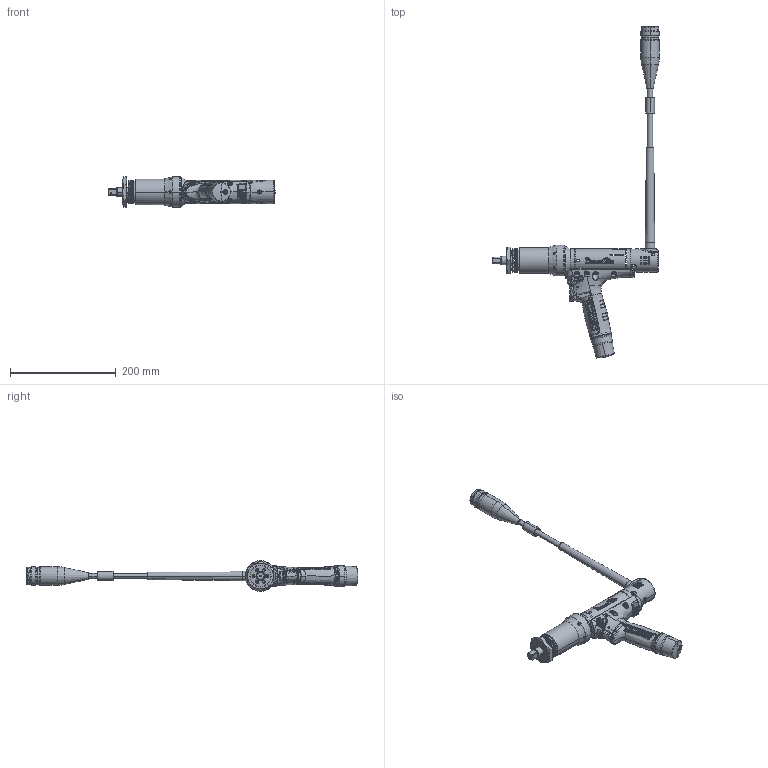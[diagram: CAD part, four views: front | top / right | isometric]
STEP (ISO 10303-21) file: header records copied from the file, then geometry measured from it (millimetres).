
FILE_DESCRIPTION((''),'2;1');
FILE_NAME('6151663100_DIM','2023-08-24T08:31:24',('S00000450'),(''),'CREO PARAMETRIC BY PTC INC, 2022414','CREO PARAMETRIC BY PTC INC, 2022414','');
FILE_SCHEMA(('CONFIG_CONTROL_DESIGN'));
Products named in the file (1): 6151663100_DIM
Bounding box: 315.62 x 628.62 x 58 mm (x, y, z)
Surface area: 116654.3 mm2 (no closed solid volume)
Topology: 0 solids, 452 shells, 1393 faces, 8059 edges, 7007 vertices
Faces by surface type: plane 461, bspline 431, cylinder 273, cone 127, extrusion 48, torus 31, sphere 22
Entity records: 133025 total; most frequent: CARTESIAN_POINT 82174, ORIENTED_EDGE 9842, EDGE_CURVE 8052, VERTEX_POINT 7007, DIRECTION 6765, B_SPLINE_CURVE_WITH_KNOTS 4195, VECTOR 2969, LINE 2921
